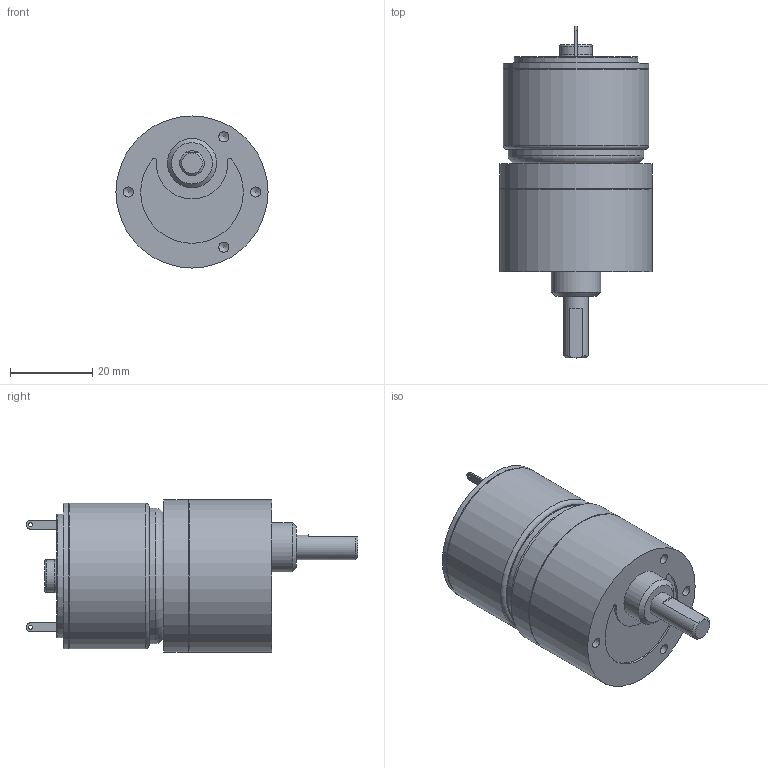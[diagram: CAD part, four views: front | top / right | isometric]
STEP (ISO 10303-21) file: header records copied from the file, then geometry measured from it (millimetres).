
FILE_DESCRIPTION((''),'2;1');
FILE_NAME('C:\Documents and Settings\SSEGAWA\デスクトップ\TP-3526G-HM-3.STP','2013-07-09T17:31:31',('SSEGAWA'),(''),'Autodesk Inventor 2010','Autodesk Inventor 2010','');
FILE_SCHEMA(('CONFIG_CONTROL_DESIGN'));
Length unit declared in the file: millimetre
Products named in the file (3): tp_3526g_hm_3; hm_3; tp_3526g
Assembly tree (2 placements, depth 2):
  tp_3526g_hm_3
    hm_3
    tp_3526g
Bounding box: 37 x 80.8 x 37 mm (x, y, z)
Volume: 54088.9 mm3; surface area: 10907 mm2
Topology: 2 solids, 2 shells, 75 faces, 157 edges, 103 vertices
Faces by surface type: plane 29, cylinder 22, bspline 17, torus 4, cone 3
Full cylindrical faces by diameter (mm): 2 x1, 2.4 x1, 5 x2, 6 x1, 8 x1, 10 x1, 12 x1, 30 x1, 33 x1, 35 x1, 35.4 x2, 36.6 x1, 37 x2
Entity records: 2055 total; most frequent: CARTESIAN_POINT 639, DIRECTION 295, ORIENTED_EDGE 200, EDGE_LOOP 135, AXIS2_PLACEMENT_3D 134, EDGE_CURVE 100, VERTEX_POINT 85, FACE_OUTER_BOUND 75
